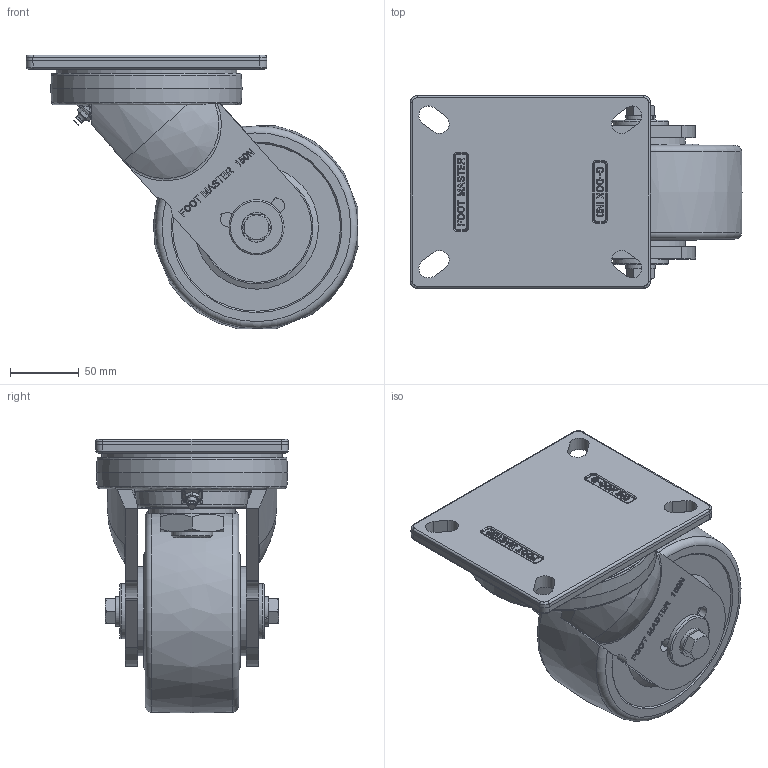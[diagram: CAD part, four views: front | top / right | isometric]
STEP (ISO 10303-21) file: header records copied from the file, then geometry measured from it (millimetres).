
FILE_DESCRIPTION(/* description */ (''),/* implementation_level */ '2;1');
FILE_NAME(/* name */ 'Y:\1.기술연구소\2.연구개발 진행중\133.고하중캐스터 브레이크 타입 변경건_2025.11.03\1.도면\4.홈페이지용 도면\01. 3D\GXT-150 SERIES\GXT-150-STEP\GXT-150N-ASF-MCD.stp',/* time_stamp */ '2026-07-21T17:35:08+09:00',/* author */ ('장용하'),/* organization */ (''),/* preprocessor_version */ 'ST-DEVELOPER v18.1',/* originating_system */ 'Autodesk Inventor 2021',/* authorisation */ '');
FILE_SCHEMA (('CONFIG_CONTROL_DESIGN'));
Length unit declared in the file: millimetre
Products named in the file (1): GXT-150N-ASF-MCD
Bounding box: 241.24 x 140 x 198.74 mm (x, y, z)
Volume: 2171377 mm3; surface area: 185657.6 mm2
Topology: 1 solids, 2 shells, 1018 faces, 2753 edges, 1813 vertices
Faces by surface type: plane 506, bspline 359, cylinder 101, cone 30, torus 18, sphere 4
Full cylindrical faces by diameter (mm): 4 x1, 12 x2, 21.5 x2, 30 x1, 40 x2, 62.5 x1, 65 x2, 131.086 x1
Entity records: 33288 total; most frequent: CARTESIAN_POINT 9914, ORIENTED_EDGE 5498, DIRECTION 3681, EDGE_CURVE 2749, VERTEX_POINT 1812, LINE 1597, VECTOR 1597, EDGE_LOOP 1113
